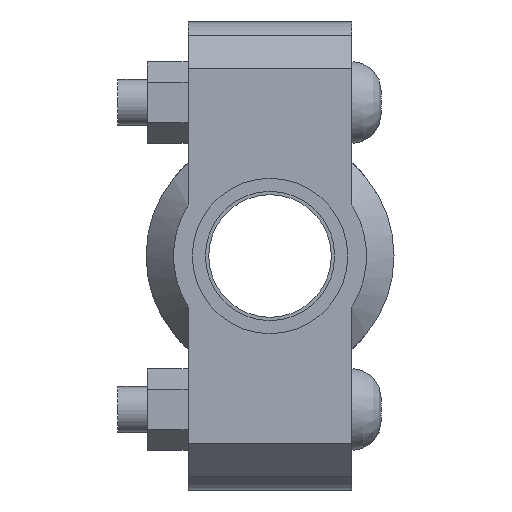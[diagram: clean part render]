
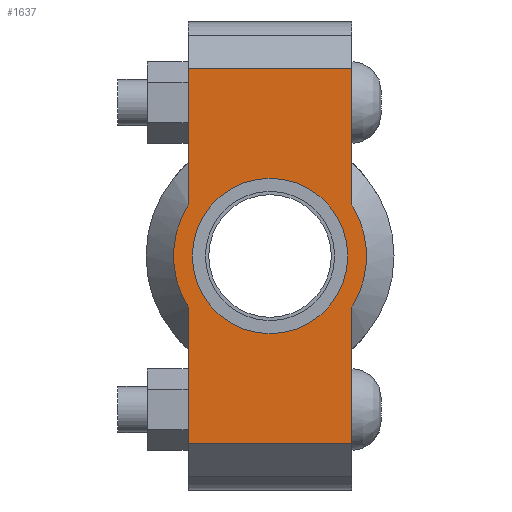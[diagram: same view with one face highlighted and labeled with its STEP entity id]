
A CAD part, left-side view. The second image highlights one B-rep face of the part: STEP entity #1637.
In plain terms, the highlighted planar face has unit normal (-1, 0, 0) as drawn and (0, 0, 1) by its records, which use the part's own axes.
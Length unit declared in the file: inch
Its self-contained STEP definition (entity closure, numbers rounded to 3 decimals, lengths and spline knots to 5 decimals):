
#192=LINE('',#2831,#289);
#207=LINE('',#2890,#304);
#215=LINE('',#2920,#312);
#217=LINE('',#2923,#314);
#218=LINE('',#2928,#315);
#219=LINE('',#2929,#316);
#289=VECTOR('',#2299,0.3937);
#304=VECTOR('',#2334,0.3937);
#312=VECTOR('',#2354,0.3937);
#314=VECTOR('',#2358,0.3937);
#315=VECTOR('',#2363,0.3937);
#316=VECTOR('',#2364,0.3937);
#380=FACE_BOUND('',#557,.T.);
#448=FACE_OUTER_BOUND('',#556,.T.);
#556=EDGE_LOOP('',(#1338,#1339,#1340,#1341,#1342,#1343,#1344,#1345));
#557=EDGE_LOOP('',(#1346));
#639=CIRCLE('',#1865,0.83);
#663=CIRCLE('',#1917,1.031);
#664=CIRCLE('',#1918,1.031);
#735=VERTEX_POINT('',#2657);
#776=VERTEX_POINT('',#2828);
#777=VERTEX_POINT('',#2830);
#798=VERTEX_POINT('',#2885);
#799=VERTEX_POINT('',#2889);
#808=VERTEX_POINT('',#2915);
#809=VERTEX_POINT('',#2919);
#810=VERTEX_POINT('',#2925);
#811=VERTEX_POINT('',#2927);
#899=EDGE_CURVE('',#735,#735,#639,.T.);
#956=EDGE_CURVE('',#777,#776,#192,.T.);
#981=EDGE_CURVE('',#799,#798,#207,.T.);
#994=EDGE_CURVE('',#809,#808,#215,.T.);
#996=EDGE_CURVE('',#809,#776,#217,.T.);
#997=EDGE_CURVE('',#808,#810,#663,.T.);
#998=EDGE_CURVE('',#810,#811,#218,.T.);
#999=EDGE_CURVE('',#799,#811,#219,.T.);
#1000=EDGE_CURVE('',#798,#777,#664,.T.);
#1338=ORIENTED_EDGE('',*,*,#996,.F.);
#1339=ORIENTED_EDGE('',*,*,#994,.T.);
#1340=ORIENTED_EDGE('',*,*,#997,.T.);
#1341=ORIENTED_EDGE('',*,*,#998,.T.);
#1342=ORIENTED_EDGE('',*,*,#999,.F.);
#1343=ORIENTED_EDGE('',*,*,#981,.T.);
#1344=ORIENTED_EDGE('',*,*,#1000,.T.);
#1345=ORIENTED_EDGE('',*,*,#956,.T.);
#1346=ORIENTED_EDGE('',*,*,#899,.T.);
#1477=PLANE('',#1916);
#1637=ADVANCED_FACE('',(#448,#380),#1477,.T.);
#1865=AXIS2_PLACEMENT_3D('',#2659,#2189,#2190);
#1916=AXIS2_PLACEMENT_3D('',#2924,#2359,#2360);
#1917=AXIS2_PLACEMENT_3D('',#2926,#2361,#2362);
#1918=AXIS2_PLACEMENT_3D('',#2930,#2365,#2366);
#2189=DIRECTION('center_axis',(0.,0.,-1.));
#2190=DIRECTION('ref_axis',(-1.,0.,0.));
#2299=DIRECTION('',(-1.,0.,0.));
#2334=DIRECTION('',(-1.,0.,0.));
#2354=DIRECTION('',(1.,0.,0.));
#2358=DIRECTION('',(0.,1.,0.));
#2359=DIRECTION('center_axis',(0.,0.,1.));
#2360=DIRECTION('ref_axis',(1.,0.,0.));
#2361=DIRECTION('center_axis',(0.,0.,1.));
#2362=DIRECTION('ref_axis',(-1.,0.,0.));
#2363=DIRECTION('',(1.,0.,0.));
#2364=DIRECTION('',(0.,-1.,0.));
#2365=DIRECTION('center_axis',(0.,0.,1.));
#2366=DIRECTION('ref_axis',(-1.,0.,0.));
#2657=CARTESIAN_POINT('',(0.83,0.,0.94));
#2659=CARTESIAN_POINT('Origin',(0.,0.,0.94));
#2828=CARTESIAN_POINT('',(-2.,0.875,0.94));
#2830=CARTESIAN_POINT('',(-0.54529,0.875,0.94));
#2831=CARTESIAN_POINT('',(2.5,0.875,0.94));
#2885=CARTESIAN_POINT('',(0.54529,0.875,0.94));
#2889=CARTESIAN_POINT('',(2.,0.875,0.94));
#2890=CARTESIAN_POINT('',(2.5,0.875,0.94));
#2915=CARTESIAN_POINT('',(-0.54529,-0.875,0.94));
#2919=CARTESIAN_POINT('',(-2.,-0.875,0.94));
#2920=CARTESIAN_POINT('',(-2.5,-0.875,0.94));
#2923=CARTESIAN_POINT('',(-2.,0.4375,0.94));
#2924=CARTESIAN_POINT('Origin',(0.,0.,
0.94));
#2925=CARTESIAN_POINT('',(0.54529,-0.875,0.94));
#2926=CARTESIAN_POINT('Origin',(0.,0.,0.94));
#2927=CARTESIAN_POINT('',(2.,-0.875,0.94));
#2928=CARTESIAN_POINT('',(-2.5,-0.875,0.94));
#2929=CARTESIAN_POINT('',(2.,-0.4375,0.94));
#2930=CARTESIAN_POINT('Origin',(0.,0.,0.94));
